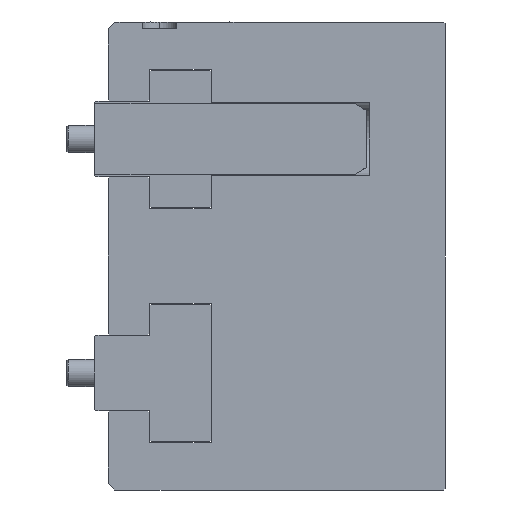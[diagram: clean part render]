
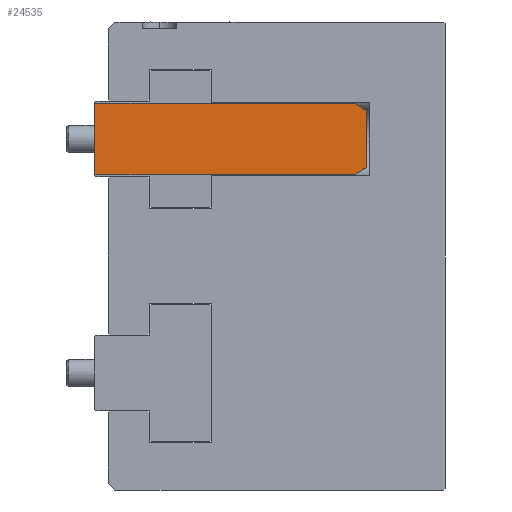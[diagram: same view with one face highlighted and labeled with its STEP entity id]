
A CAD part, left-side view. The second image highlights one B-rep face of the part: STEP entity #24535.
In plain terms, the highlighted planar face has unit normal (-1, 0, 0).
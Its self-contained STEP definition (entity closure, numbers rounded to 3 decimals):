
#68 = DIRECTION ( 'NONE',  ( 0., -0.866, 0.5 ) ) ;
#689 = VERTEX_POINT ( 'NONE', #40869 ) ;
#1333 = VERTEX_POINT ( 'NONE', #43136 ) ;
#1563 = VECTOR ( 'NONE', #2331, 1000. ) ;
#1897 = ORIENTED_EDGE ( 'NONE', *, *, #18865, .F. ) ;
#2331 = DIRECTION ( 'NONE',  ( 0., 0., -1. ) ) ;
#2923 = ORIENTED_EDGE ( 'NONE', *, *, #46025, .F. ) ;
#3396 = CARTESIAN_POINT ( 'NONE',  ( -260., -45., -10.35 ) ) ;
#3528 = CARTESIAN_POINT ( 'NONE',  ( -260., -41.5, 10.35 ) ) ;
#3956 = EDGE_CURVE ( 'NONE', #42712, #28340, #5892, .T. ) ;
#4752 = CARTESIAN_POINT ( 'NONE',  ( -260., -45., 10.35 ) ) ;
#5771 = CARTESIAN_POINT ( 'NONE',  ( -260., -45., -10.35 ) ) ;
#5781 = VECTOR ( 'NONE', #8078, 1000. ) ;
#5892 = LINE ( 'NONE', #43703, #7045 ) ;
#7045 = VECTOR ( 'NONE', #22194, 1000. ) ;
#7617 = VECTOR ( 'NONE', #20313, 1000. ) ;
#8078 = DIRECTION ( 'NONE',  ( 0., 0.707, -0.707 ) ) ;
#8377 = CARTESIAN_POINT ( 'NONE',  ( -260., 33.499, 10.35 ) ) ;
#9288 = FACE_OUTER_BOUND ( 'NONE', #22829, .T. ) ;
#11945 = EDGE_CURVE ( 'NONE', #37481, #689, #42961, .T. ) ;
#14743 = VECTOR ( 'NONE', #24999, 1000. ) ;
#15091 = PLANE ( 'NONE',  #19917 ) ;
#17239 = LINE ( 'NONE', #5771, #7617 ) ;
#18103 = CARTESIAN_POINT ( 'NONE',  ( -260., -41.5, -10.35 ) ) ;
#18865 = EDGE_CURVE ( 'NONE', #25273, #29267, #29229, .T. ) ;
#19608 = VECTOR ( 'NONE', #27248, 1000. ) ;
#19917 = AXIS2_PLACEMENT_3D ( 'NONE', #40242, #43837, #22310 ) ;
#20313 = DIRECTION ( 'NONE',  ( 0., 1., 0. ) ) ;
#21479 = ORIENTED_EDGE ( 'NONE', *, *, #38779, .T. ) ;
#22194 = DIRECTION ( 'NONE',  ( 0., 0.866, 0.5 ) ) ;
#22250 = EDGE_CURVE ( 'NONE', #30839, #25273, #17239, .T. ) ;
#22310 = DIRECTION ( 'NONE',  ( 0., 0., 1. ) ) ;
#22370 = CARTESIAN_POINT ( 'NONE',  ( -260., 33.499, -10.35 ) ) ;
#22829 = EDGE_LOOP ( 'NONE', ( #1897, #23373, #21479, #31576, #41293, #2923, #36899, #37076 ) ) ;
#22917 = DIRECTION ( 'NONE',  ( 0., -1., 0. ) ) ;
#23166 = VECTOR ( 'NONE', #68, 1000. ) ;
#23373 = ORIENTED_EDGE ( 'NONE', *, *, #22250, .F. ) ;
#24274 = LINE ( 'NONE', #3396, #14743 ) ;
#24535 = ADVANCED_FACE ( 'NONE', ( #9288 ), #15091, .T. ) ;
#24592 = VECTOR ( 'NONE', #22917, 1000. ) ;
#24999 = DIRECTION ( 'NONE',  ( 0., 0., 1. ) ) ;
#25273 = VERTEX_POINT ( 'NONE', #22370 ) ;
#27248 = DIRECTION ( 'NONE',  ( 0., 0.707, 0.707 ) ) ;
#27581 = CARTESIAN_POINT ( 'NONE',  ( -260., 33.999, 10.35 ) ) ;
#28340 = VERTEX_POINT ( 'NONE', #3528 ) ;
#29229 = LINE ( 'NONE', #41394, #19608 ) ;
#29267 = VERTEX_POINT ( 'NONE', #33144 ) ;
#29414 = CARTESIAN_POINT ( 'NONE',  ( -260., -45., 8.329 ) ) ;
#30839 = VERTEX_POINT ( 'NONE', #43900 ) ;
#31576 = ORIENTED_EDGE ( 'NONE', *, *, #38777, .T. ) ;
#33144 = CARTESIAN_POINT ( 'NONE',  ( -260., 33.999, -9.85 ) ) ;
#36899 = ORIENTED_EDGE ( 'NONE', *, *, #11945, .T. ) ;
#37076 = ORIENTED_EDGE ( 'NONE', *, *, #42217, .T. ) ;
#37481 = VERTEX_POINT ( 'NONE', #8377 ) ;
#38777 = EDGE_CURVE ( 'NONE', #1333, #42712, #24274, .T. ) ;
#38779 = EDGE_CURVE ( 'NONE', #30839, #1333, #42277, .T. ) ;
#38787 = LINE ( 'NONE', #27581, #1563 ) ;
#40242 = CARTESIAN_POINT ( 'NONE',  ( -260., -45., -10.35 ) ) ;
#40869 = CARTESIAN_POINT ( 'NONE',  ( -260., 33.999, 9.85 ) ) ;
#40983 = CARTESIAN_POINT ( 'NONE',  ( -260., 33.499, 10.35 ) ) ;
#41293 = ORIENTED_EDGE ( 'NONE', *, *, #3956, .T. ) ;
#41394 = CARTESIAN_POINT ( 'NONE',  ( -260., 33.999, -9.85 ) ) ;
#42217 = EDGE_CURVE ( 'NONE', #689, #29267, #38787, .T. ) ;
#42277 = LINE ( 'NONE', #18103, #23166 ) ;
#42712 = VERTEX_POINT ( 'NONE', #29414 ) ;
#42961 = LINE ( 'NONE', #40983, #5781 ) ;
#43136 = CARTESIAN_POINT ( 'NONE',  ( -260., -45., -8.329 ) ) ;
#43703 = CARTESIAN_POINT ( 'NONE',  ( -260., -45., 8.329 ) ) ;
#43837 = DIRECTION ( 'NONE',  ( -1., 0., 0. ) ) ;
#43900 = CARTESIAN_POINT ( 'NONE',  ( -260., -41.5, -10.35 ) ) ;
#44833 = LINE ( 'NONE', #4752, #24592 ) ;
#46025 = EDGE_CURVE ( 'NONE', #37481, #28340, #44833, .T. ) ;
